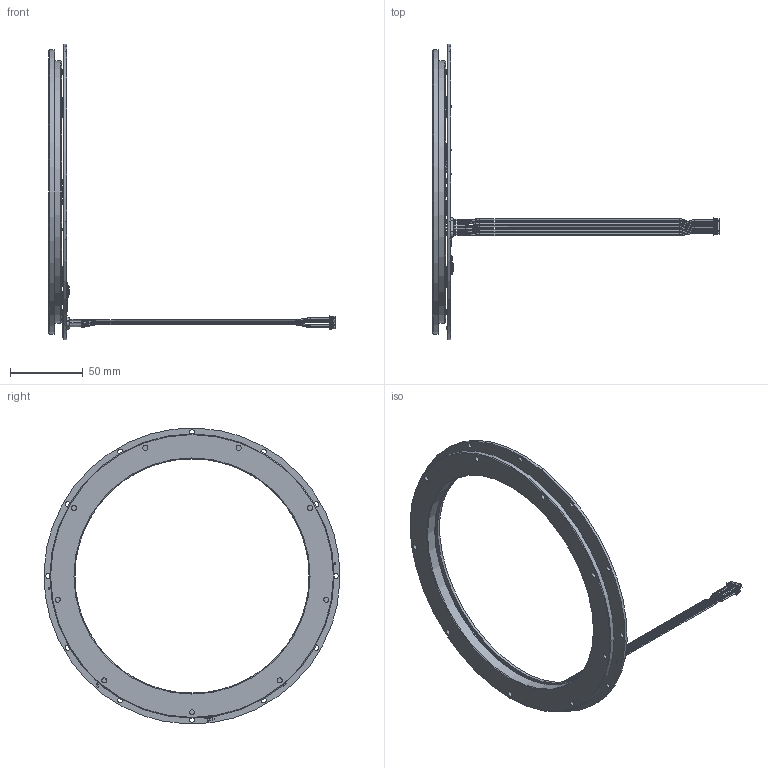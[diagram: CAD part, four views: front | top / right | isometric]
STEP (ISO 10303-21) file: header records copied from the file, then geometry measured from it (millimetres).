
FILE_DESCRIPTION(/* description */ (''),/* implementation_level */ '2;1');
FILE_NAME(/* name */ 'EAS-051.stp',/* time_stamp */ '2025-11-03T16:05:26+08:00',/* author */ (''),/* organization */ (''),/* preprocessor_version */ 'ST-DEVELOPER v15',/* originating_system */ 'SIEMENS PLM Software NX 8.5',/* authorisation */ '');
FILE_SCHEMA (('AUTOMOTIVE_DESIGN { 1 0 10303 214 3 1 1 1 }'));
Products named in the file (1): LeiX17B4F3464sqo
Bounding box: 196.2 x 202.85 x 202.85 mm (x, y, z)
Volume: 86784.4 mm3; surface area: 71566.6 mm2
Topology: 337 solids, 345 shells, 5353 faces, 13244 edges, 8404 vertices
Faces by surface type: plane 3941, cylinder 1034, sphere 244, bspline 109, extrusion 12, torus 8, cone 5
Full cylindrical faces by diameter (mm): 0.35 x12, 0.6 x12, 0.9 x48, 1 x2, 3.5 x21, 161 x2, 163 x1, 179 x1, 180 x1, 195 x1
Entity records: 167130 total; most frequent: CARTESIAN_POINT 36755, ORIENTED_EDGE 25598, DIRECTION 24835, EDGE_CURVE 12799, VECTOR 10321, LINE 10309, VERTEX_POINT 8312, AXIS2_PLACEMENT_3D 7257
